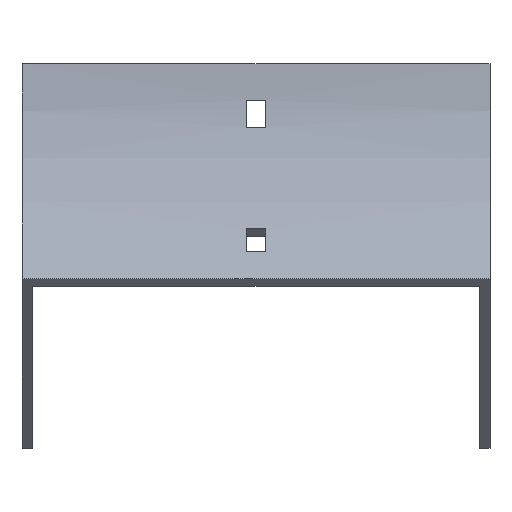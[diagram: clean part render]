
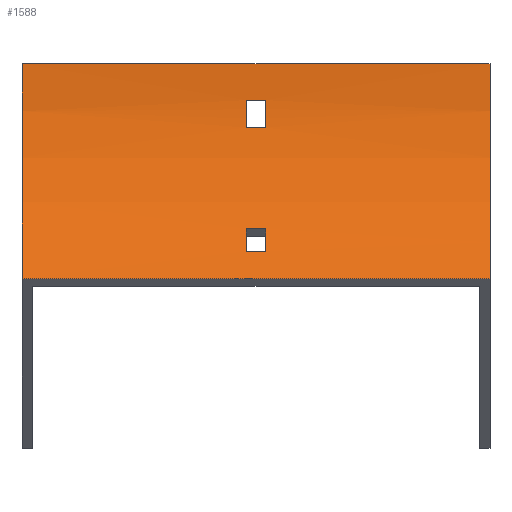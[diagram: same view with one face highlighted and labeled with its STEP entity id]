
A CAD part, front view. The second image highlights one B-rep face of the part: STEP entity #1588.
In plain terms, the highlighted cylindrical face has radius 100 mm (diameter 200 mm), a partial arc.
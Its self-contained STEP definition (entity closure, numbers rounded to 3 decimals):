
#2 = FACE_OUTER_BOUND ( 'NONE', #772, .T. ) ;
#13 = DIRECTION ( 'NONE',  ( -1., 0., 0. ) ) ;
#17 = CIRCLE ( 'NONE', #549, 100. ) ;
#18 = CIRCLE ( 'NONE', #628, 100. ) ;
#22 = FACE_BOUND ( 'NONE', #979, .T. ) ;
#32 = LINE ( 'NONE', #1599, #1210 ) ;
#34 = VERTEX_POINT ( 'NONE', #729 ) ;
#70 = CARTESIAN_POINT ( 'NONE',  ( -3.25, -100., 0. ) ) ;
#77 = ORIENTED_EDGE ( 'NONE', *, *, #680, .F. ) ;
#87 = CARTESIAN_POINT ( 'NONE',  ( 3.25, -2.23, -21. ) ) ;
#131 = CARTESIAN_POINT ( 'NONE',  ( 3.25, -16.017, -54.285 ) ) ;
#163 = CARTESIAN_POINT ( 'NONE',  ( -3.25, -21.315, -61.714 ) ) ;
#168 = CARTESIAN_POINT ( 'NONE',  ( 77., -29.289, -70.711 ) ) ;
#199 = VERTEX_POINT ( 'NONE', #1669 ) ;
#231 = LINE ( 'NONE', #1065, #289 ) ;
#289 = VECTOR ( 'NONE', #404, 1000. ) ;
#301 = CARTESIAN_POINT ( 'NONE',  ( -3.25, -16.017, -54.285 ) ) ;
#307 = VERTEX_POINT ( 'NONE', #1499 ) ;
#321 = DIRECTION ( 'NONE',  ( 1., 0., 0. ) ) ;
#378 = CARTESIAN_POINT ( 'NONE',  ( 77., -2.23, -21. ) ) ;
#381 = EDGE_CURVE ( 'NONE', #1238, #1253, #231, .T. ) ;
#404 = DIRECTION ( 'NONE',  ( -1., 0., 0. ) ) ;
#420 = LINE ( 'NONE', #1475, #964 ) ;
#427 = VERTEX_POINT ( 'NONE', #168 ) ;
#482 = CARTESIAN_POINT ( 'NONE',  ( 77., -16.017, -54.285 ) ) ;
#499 = EDGE_CURVE ( 'NONE', #1199, #307, #1501, .T. ) ;
#519 = AXIS2_PLACEMENT_3D ( 'NONE', #1006, #1399, #745 ) ;
#536 = EDGE_CURVE ( 'NONE', #1061, #199, #934, .T. ) ;
#538 = CYLINDRICAL_SURFACE ( 'NONE', #1082, 100. ) ;
#548 = DIRECTION ( 'NONE',  ( 0., 0., 1. ) ) ;
#549 = AXIS2_PLACEMENT_3D ( 'NONE', #576, #1092, #1596 ) ;
#568 = VECTOR ( 'NONE', #321, 1000. ) ;
#576 = CARTESIAN_POINT ( 'NONE',  ( -3.25, -100., 0. ) ) ;
#601 = DIRECTION ( 'NONE',  ( 0., 0., 1. ) ) ;
#612 = EDGE_CURVE ( 'NONE', #1453, #690, #1649, .T. ) ;
#628 = AXIS2_PLACEMENT_3D ( 'NONE', #693, #1227, #1100 ) ;
#651 = CIRCLE ( 'NONE', #1605, 100. ) ;
#674 = FACE_BOUND ( 'NONE', #701, .T. ) ;
#680 = EDGE_CURVE ( 'NONE', #427, #1142, #420, .T. ) ;
#690 = VERTEX_POINT ( 'NONE', #301 ) ;
#693 = CARTESIAN_POINT ( 'NONE',  ( 77., -100., 0. ) ) ;
#701 = EDGE_LOOP ( 'NONE', ( #1043, #949, #1676, #1461 ) ) ;
#709 = EDGE_CURVE ( 'NONE', #1253, #1142, #651, .T. ) ;
#729 = CARTESIAN_POINT ( 'NONE',  ( 3.25, -0.723, -12. ) ) ;
#745 = DIRECTION ( 'NONE',  ( 0., 0., 1. ) ) ;
#772 = EDGE_LOOP ( 'NONE', ( #1563, #77, #1440, #1473 ) ) ;
#775 = CARTESIAN_POINT ( 'NONE',  ( -77., -29.289, -70.711 ) ) ;
#834 = DIRECTION ( 'NONE',  ( -1., 0., 0. ) ) ;
#853 = EDGE_CURVE ( 'NONE', #863, #1061, #1417, .T. ) ;
#855 = CARTESIAN_POINT ( 'NONE',  ( 3.25, -100., 0. ) ) ;
#860 = ORIENTED_EDGE ( 'NONE', *, *, #612, .F. ) ;
#861 = EDGE_CURVE ( 'NONE', #307, #1453, #1049, .T. ) ;
#863 = VERTEX_POINT ( 'NONE', #87 ) ;
#889 = CARTESIAN_POINT ( 'NONE',  ( 77., 0., 0. ) ) ;
#934 = CIRCLE ( 'NONE', #1389, 100. ) ;
#943 = ORIENTED_EDGE ( 'NONE', *, *, #861, .F. ) ;
#945 = EDGE_CURVE ( 'NONE', #199, #34, #32, .T. ) ;
#949 = ORIENTED_EDGE ( 'NONE', *, *, #536, .T. ) ;
#964 = VECTOR ( 'NONE', #1345, 1000. ) ;
#979 = EDGE_LOOP ( 'NONE', ( #1653, #860, #943, #1628 ) ) ;
#1006 = CARTESIAN_POINT ( 'NONE',  ( 3.25, -100., 0. ) ) ;
#1012 = DIRECTION ( 'NONE',  ( -1., 0., 0. ) ) ;
#1016 = DIRECTION ( 'NONE',  ( -1., 0., 0. ) ) ;
#1043 = ORIENTED_EDGE ( 'NONE', *, *, #853, .T. ) ;
#1049 = CIRCLE ( 'NONE', #519, 100. ) ;
#1061 = VERTEX_POINT ( 'NONE', #1685 ) ;
#1065 = CARTESIAN_POINT ( 'NONE',  ( 77., 0., 0. ) ) ;
#1076 = CARTESIAN_POINT ( 'NONE',  ( -77., 0., 0. ) ) ;
#1080 = VECTOR ( 'NONE', #1016, 1000. ) ;
#1082 = AXIS2_PLACEMENT_3D ( 'NONE', #1204, #13, #548 ) ;
#1092 = DIRECTION ( 'NONE',  ( -1., 0., 0. ) ) ;
#1094 = DIRECTION ( 'NONE',  ( -1., 0., 0. ) ) ;
#1100 = DIRECTION ( 'NONE',  ( 0., 0., 1. ) ) ;
#1120 = CARTESIAN_POINT ( 'NONE',  ( -77., -100., 0. ) ) ;
#1142 = VERTEX_POINT ( 'NONE', #775 ) ;
#1199 = VERTEX_POINT ( 'NONE', #163 ) ;
#1203 = EDGE_CURVE ( 'NONE', #690, #1199, #17, .T. ) ;
#1204 = CARTESIAN_POINT ( 'NONE',  ( 77., -100., 0. ) ) ;
#1210 = VECTOR ( 'NONE', #1346, 1000. ) ;
#1227 = DIRECTION ( 'NONE',  ( -1., 0., 0. ) ) ;
#1238 = VERTEX_POINT ( 'NONE', #889 ) ;
#1253 = VERTEX_POINT ( 'NONE', #1076 ) ;
#1255 = DIRECTION ( 'NONE',  ( 0., 0., -1. ) ) ;
#1345 = DIRECTION ( 'NONE',  ( -1., 0., 0. ) ) ;
#1346 = DIRECTION ( 'NONE',  ( 1., 0., 0. ) ) ;
#1373 = EDGE_CURVE ( 'NONE', #1238, #427, #18, .T. ) ;
#1389 = AXIS2_PLACEMENT_3D ( 'NONE', #70, #1391, #601 ) ;
#1391 = DIRECTION ( 'NONE',  ( 1., 0., 0. ) ) ;
#1396 = EDGE_CURVE ( 'NONE', #34, #863, #1474, .T. ) ;
#1399 = DIRECTION ( 'NONE',  ( 1., 0., 0. ) ) ;
#1417 = LINE ( 'NONE', #378, #1080 ) ;
#1422 = VECTOR ( 'NONE', #1094, 1000. ) ;
#1426 = AXIS2_PLACEMENT_3D ( 'NONE', #855, #1012, #1255 ) ;
#1440 = ORIENTED_EDGE ( 'NONE', *, *, #1373, .F. ) ;
#1453 = VERTEX_POINT ( 'NONE', #131 ) ;
#1461 = ORIENTED_EDGE ( 'NONE', *, *, #1396, .T. ) ;
#1473 = ORIENTED_EDGE ( 'NONE', *, *, #381, .T. ) ;
#1474 = CIRCLE ( 'NONE', #1426, 100. ) ;
#1475 = CARTESIAN_POINT ( 'NONE',  ( 77., -29.289, -70.711 ) ) ;
#1499 = CARTESIAN_POINT ( 'NONE',  ( 3.25, -21.315, -61.714 ) ) ;
#1501 = LINE ( 'NONE', #1613, #568 ) ;
#1563 = ORIENTED_EDGE ( 'NONE', *, *, #709, .T. ) ;
#1588 = ADVANCED_FACE ( 'NONE', ( #2, #674, #22 ), #538, .F. ) ;
#1596 = DIRECTION ( 'NONE',  ( 0., 0., -1. ) ) ;
#1599 = CARTESIAN_POINT ( 'NONE',  ( 77., -0.723, -12. ) ) ;
#1605 = AXIS2_PLACEMENT_3D ( 'NONE', #1120, #834, #1611 ) ;
#1611 = DIRECTION ( 'NONE',  ( 0., 0., 1. ) ) ;
#1613 = CARTESIAN_POINT ( 'NONE',  ( 77., -21.315, -61.714 ) ) ;
#1628 = ORIENTED_EDGE ( 'NONE', *, *, #499, .F. ) ;
#1649 = LINE ( 'NONE', #482, #1422 ) ;
#1653 = ORIENTED_EDGE ( 'NONE', *, *, #1203, .F. ) ;
#1669 = CARTESIAN_POINT ( 'NONE',  ( -3.25, -0.723, -12. ) ) ;
#1676 = ORIENTED_EDGE ( 'NONE', *, *, #945, .T. ) ;
#1685 = CARTESIAN_POINT ( 'NONE',  ( -3.25, -2.23, -21. ) ) ;
